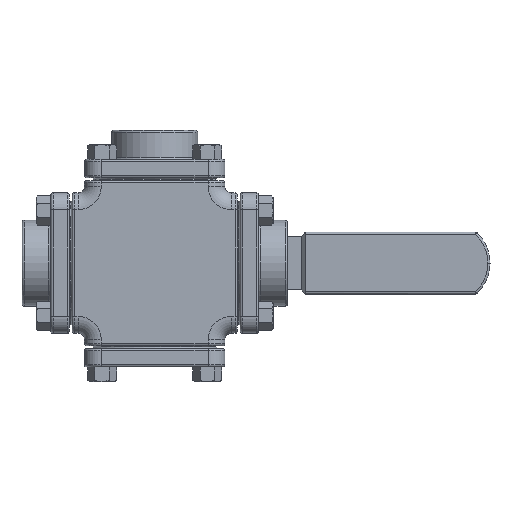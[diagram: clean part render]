
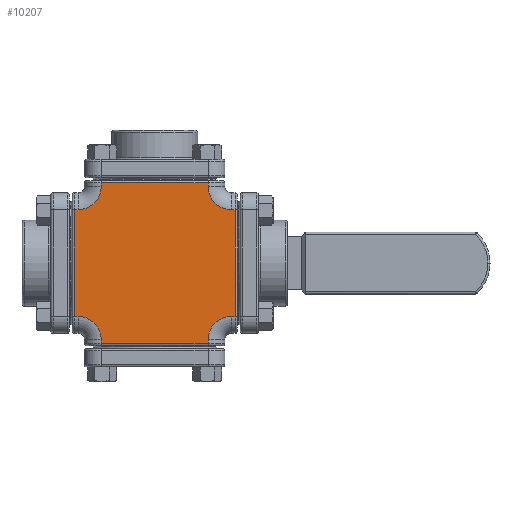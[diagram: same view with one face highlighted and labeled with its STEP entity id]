
A CAD part, front view. The second image highlights one B-rep face of the part: STEP entity #10207.
In plain terms, the highlighted planar face has unit normal (0, -1, 0).
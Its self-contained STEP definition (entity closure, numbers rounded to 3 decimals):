
#9001 = CARTESIAN_POINT ( 'NONE',  ( -36.5, -33.5, -25.5 ) ) ;
#10172 = EDGE_CURVE ( 'NONE', #22972, #10173, #18976, .T. ) ;
#10173 = VERTEX_POINT ( 'NONE', #18971 ) ;
#10174 = ORIENTED_EDGE ( 'NONE', *, *, #10175, .T. ) ;
#10175 = EDGE_CURVE ( 'NONE', #10173, #10176, #18970, .T. ) ;
#10176 = VERTEX_POINT ( 'NONE', #18966 ) ;
#10177 = ORIENTED_EDGE ( 'NONE', *, *, #10178, .T. ) ;
#10178 = EDGE_CURVE ( 'NONE', #10176, #10179, #18965, .T. ) ;
#10179 = VERTEX_POINT ( 'NONE', #18961 ) ;
#10180 = ORIENTED_EDGE ( 'NONE', *, *, #10181, .T. ) ;
#10181 = EDGE_CURVE ( 'NONE', #10209, #10182, #18960, .T. ) ;
#10182 = VERTEX_POINT ( 'NONE', #18956 ) ;
#10183 = ORIENTED_EDGE ( 'NONE', *, *, #10184, .T. ) ;
#10184 = EDGE_CURVE ( 'NONE', #10182, #10185, #18955, .T. ) ;
#10185 = VERTEX_POINT ( 'NONE', #18951 ) ;
#10186 = ORIENTED_EDGE ( 'NONE', *, *, #10187, .T. ) ;
#10187 = EDGE_CURVE ( 'NONE', #10185, #10188, #18950, .T. ) ;
#10188 = VERTEX_POINT ( 'NONE', #19007 ) ;
#10189 = ORIENTED_EDGE ( 'NONE', *, *, #10190, .T. ) ;
#10190 = EDGE_CURVE ( 'NONE', #10188, #10191, #19006, .T. ) ;
#10191 = VERTEX_POINT ( 'NONE', #19001 ) ;
#10192 = ORIENTED_EDGE ( 'NONE', *, *, #10193, .T. ) ;
#10193 = EDGE_CURVE ( 'NONE', #10191, #10194, #19000, .T. ) ;
#10194 = VERTEX_POINT ( 'NONE', #18996 ) ;
#10207 = ADVANCED_FACE ( 'NONE', ( #19038 ), #19037, .F. ) ;
#10208 = EDGE_LOOP ( 'NONE', ( #10180, #10183, #10186, #10189, #10192, #10255, #10258, #22969, #10174, #10177, #10240, #10243, #10246, #10249, #10252, #10228 ) ) ;
#10209 = VERTEX_POINT ( 'NONE', #19032 ) ;
#10228 = ORIENTED_EDGE ( 'NONE', *, *, #10229, .T. ) ;
#10229 = EDGE_CURVE ( 'NONE', #10254, #10209, #19062, .T. ) ;
#10240 = ORIENTED_EDGE ( 'NONE', *, *, #10241, .T. ) ;
#10241 = EDGE_CURVE ( 'NONE', #10179, #10242, #19099, .T. ) ;
#10242 = VERTEX_POINT ( 'NONE', #19095 ) ;
#10243 = ORIENTED_EDGE ( 'NONE', *, *, #10244, .T. ) ;
#10244 = EDGE_CURVE ( 'NONE', #10242, #10245, #19094, .T. ) ;
#10245 = VERTEX_POINT ( 'NONE', #19089 ) ;
#10246 = ORIENTED_EDGE ( 'NONE', *, *, #10247, .T. ) ;
#10247 = EDGE_CURVE ( 'NONE', #10245, #10248, #19088, .T. ) ;
#10248 = VERTEX_POINT ( 'NONE', #19084 ) ;
#10249 = ORIENTED_EDGE ( 'NONE', *, *, #10250, .T. ) ;
#10250 = EDGE_CURVE ( 'NONE', #10248, #10251, #19083, .T. ) ;
#10251 = VERTEX_POINT ( 'NONE', #19079 ) ;
#10252 = ORIENTED_EDGE ( 'NONE', *, *, #10253, .T. ) ;
#10253 = EDGE_CURVE ( 'NONE', #10251, #10254, #19078, .T. ) ;
#10254 = VERTEX_POINT ( 'NONE', #19134 ) ;
#10255 = ORIENTED_EDGE ( 'NONE', *, *, #10256, .T. ) ;
#10256 = EDGE_CURVE ( 'NONE', #10194, #10257, #19133, .T. ) ;
#10257 = VERTEX_POINT ( 'NONE', #19129 ) ;
#10258 = ORIENTED_EDGE ( 'NONE', *, *, #10259, .T. ) ;
#10259 = EDGE_CURVE ( 'NONE', #10257, #22972, #19128, .T. ) ;
#18949 = CARTESIAN_POINT ( 'NONE',  ( -25.5, -33.5, 36.5 ) ) ;
#18950 = LINE ( 'NONE', #18949, #19009 ) ;
#18951 = CARTESIAN_POINT ( 'NONE',  ( -25.5, -33.5, 38.4 ) ) ;
#18952 = DIRECTION ( 'NONE',  ( -1., 0., 0. ) ) ;
#18953 = VECTOR ( 'NONE', #18952, 1000. ) ;
#18954 = CARTESIAN_POINT ( 'NONE',  ( -25.5, -33.5, 38.4 ) ) ;
#18955 = LINE ( 'NONE', #18954, #18953 ) ;
#18956 = CARTESIAN_POINT ( 'NONE',  ( 25.5, -33.5, 38.4 ) ) ;
#18957 = DIRECTION ( 'NONE',  ( 0., 0., 1. ) ) ;
#18958 = VECTOR ( 'NONE', #18957, 1000. ) ;
#18959 = CARTESIAN_POINT ( 'NONE',  ( 25.5, -33.5, 0. ) ) ;
#18960 = LINE ( 'NONE', #18959, #18958 ) ;
#18961 = CARTESIAN_POINT ( 'NONE',  ( 25.5, -33.5, -38.4 ) ) ;
#18962 = DIRECTION ( 'NONE',  ( 1., 0., 0. ) ) ;
#18963 = VECTOR ( 'NONE', #18962, 1000. ) ;
#18964 = CARTESIAN_POINT ( 'NONE',  ( -86.821, -33.5, -38.4 ) ) ;
#18965 = LINE ( 'NONE', #18964, #18963 ) ;
#18966 = CARTESIAN_POINT ( 'NONE',  ( -25.5, -33.5, -38.4 ) ) ;
#18967 = DIRECTION ( 'NONE',  ( 0., 0., -1. ) ) ;
#18968 = VECTOR ( 'NONE', #18967, 1000. ) ;
#18969 = CARTESIAN_POINT ( 'NONE',  ( -25.5, -33.5, -39.4 ) ) ;
#18970 = LINE ( 'NONE', #18969, #18968 ) ;
#18971 = CARTESIAN_POINT ( 'NONE',  ( -25.5, -33.5, -36.5 ) ) ;
#18972 = DIRECTION ( 'NONE',  ( 0., 0., 1. ) ) ;
#18973 = DIRECTION ( 'NONE',  ( 0., 1., 0. ) ) ;
#18974 = CARTESIAN_POINT ( 'NONE',  ( -36.5, -33.5, -36.5 ) ) ;
#18975 = AXIS2_PLACEMENT_3D ( 'NONE', #18974, #18973, #18972 ) ;
#18976 = CIRCLE ( 'NONE', #18975, 11. ) ;
#18996 = CARTESIAN_POINT ( 'NONE',  ( -38.4, -33.5, 25.5 ) ) ;
#18997 = DIRECTION ( 'NONE',  ( -1., 0., 0. ) ) ;
#18998 = VECTOR ( 'NONE', #18997, 1000. ) ;
#18999 = CARTESIAN_POINT ( 'NONE',  ( -39.4, -33.5, 25.5 ) ) ;
#19000 = LINE ( 'NONE', #18999, #18998 ) ;
#19001 = CARTESIAN_POINT ( 'NONE',  ( -36.5, -33.5, 25.5 ) ) ;
#19002 = DIRECTION ( 'NONE',  ( 0., 0., 1. ) ) ;
#19003 = DIRECTION ( 'NONE',  ( 0., 1., 0. ) ) ;
#19004 = CARTESIAN_POINT ( 'NONE',  ( -36.5, -33.5, 36.5 ) ) ;
#19005 = AXIS2_PLACEMENT_3D ( 'NONE', #19004, #19003, #19002 ) ;
#19006 = CIRCLE ( 'NONE', #19005, 11. ) ;
#19007 = CARTESIAN_POINT ( 'NONE',  ( -25.5, -33.5, 36.5 ) ) ;
#19008 = DIRECTION ( 'NONE',  ( 0., 0., -1. ) ) ;
#19009 = VECTOR ( 'NONE', #19008, 1000. ) ;
#19032 = CARTESIAN_POINT ( 'NONE',  ( 25.5, -33.5, 36.5 ) ) ;
#19033 = DIRECTION ( 'NONE',  ( 0., 0., 1. ) ) ;
#19034 = DIRECTION ( 'NONE',  ( 0., 1., 0. ) ) ;
#19035 = AXIS2_PLACEMENT_3D ( 'NONE', #19036, #19034, #19033 ) ;
#19036 = CARTESIAN_POINT ( 'NONE',  ( -86.821, -33.5, 0. ) ) ;
#19037 = PLANE ( 'NONE',  #19035 ) ;
#19038 = FACE_OUTER_BOUND ( 'NONE', #10208, .T. ) ;
#19058 = DIRECTION ( 'NONE',  ( 0., 0., 1. ) ) ;
#19059 = DIRECTION ( 'NONE',  ( 0., 1., 0. ) ) ;
#19060 = CARTESIAN_POINT ( 'NONE',  ( 36.5, -33.5, 36.5 ) ) ;
#19061 = AXIS2_PLACEMENT_3D ( 'NONE', #19060, #19059, #19058 ) ;
#19062 = CIRCLE ( 'NONE', #19061, 11. ) ;
#19075 = DIRECTION ( 'NONE',  ( -1., 0., 0. ) ) ;
#19076 = VECTOR ( 'NONE', #19075, 1000. ) ;
#19077 = CARTESIAN_POINT ( 'NONE',  ( 36.5, -33.5, 25.5 ) ) ;
#19078 = LINE ( 'NONE', #19077, #19076 ) ;
#19079 = CARTESIAN_POINT ( 'NONE',  ( 38.4, -33.5, 25.5 ) ) ;
#19080 = DIRECTION ( 'NONE',  ( 0., 0., 1. ) ) ;
#19081 = VECTOR ( 'NONE', #19080, 1000. ) ;
#19082 = CARTESIAN_POINT ( 'NONE',  ( 38.4, -33.5, 0. ) ) ;
#19083 = LINE ( 'NONE', #19082, #19081 ) ;
#19084 = CARTESIAN_POINT ( 'NONE',  ( 38.4, -33.5, -25.5 ) ) ;
#19085 = DIRECTION ( 'NONE',  ( 1., 0., 0. ) ) ;
#19086 = VECTOR ( 'NONE', #19085, 1000. ) ;
#19087 = CARTESIAN_POINT ( 'NONE',  ( -86.821, -33.5, -25.5 ) ) ;
#19088 = LINE ( 'NONE', #19087, #19086 ) ;
#19089 = CARTESIAN_POINT ( 'NONE',  ( 36.5, -33.5, -25.5 ) ) ;
#19090 = DIRECTION ( 'NONE',  ( 0., 0., 1. ) ) ;
#19091 = DIRECTION ( 'NONE',  ( 0., 1., 0. ) ) ;
#19092 = CARTESIAN_POINT ( 'NONE',  ( 36.5, -33.5, -36.5 ) ) ;
#19093 = AXIS2_PLACEMENT_3D ( 'NONE', #19092, #19091, #19090 ) ;
#19094 = CIRCLE ( 'NONE', #19093, 11. ) ;
#19095 = CARTESIAN_POINT ( 'NONE',  ( 25.5, -33.5, -36.5 ) ) ;
#19096 = DIRECTION ( 'NONE',  ( 0., 0., 1. ) ) ;
#19097 = VECTOR ( 'NONE', #19096, 1000. ) ;
#19098 = CARTESIAN_POINT ( 'NONE',  ( 25.5, -33.5, 0. ) ) ;
#19099 = LINE ( 'NONE', #19098, #19097 ) ;
#19125 = DIRECTION ( 'NONE',  ( 1., 0., 0. ) ) ;
#19126 = VECTOR ( 'NONE', #19125, 1000. ) ;
#19127 = CARTESIAN_POINT ( 'NONE',  ( -86.821, -33.5, -25.5 ) ) ;
#19128 = LINE ( 'NONE', #19127, #19126 ) ;
#19129 = CARTESIAN_POINT ( 'NONE',  ( -38.4, -33.5, -25.5 ) ) ;
#19130 = DIRECTION ( 'NONE',  ( 0., 0., -1. ) ) ;
#19131 = VECTOR ( 'NONE', #19130, 1000. ) ;
#19132 = CARTESIAN_POINT ( 'NONE',  ( -38.4, -33.5, -25.5 ) ) ;
#19133 = LINE ( 'NONE', #19132, #19131 ) ;
#19134 = CARTESIAN_POINT ( 'NONE',  ( 36.5, -33.5, 25.5 ) ) ;
#22969 = ORIENTED_EDGE ( 'NONE', *, *, #10172, .T. ) ;
#22972 = VERTEX_POINT ( 'NONE', #9001 ) ;
